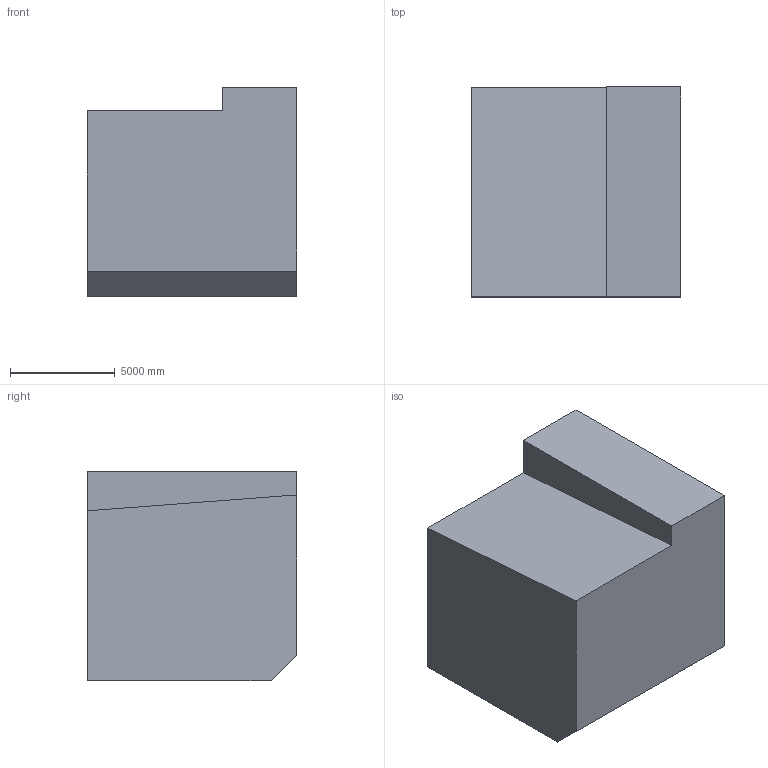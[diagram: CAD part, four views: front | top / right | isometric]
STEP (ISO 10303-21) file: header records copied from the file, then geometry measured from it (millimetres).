
FILE_DESCRIPTION (( 'STEP AP203' ), '1' );
FILE_NAME ('1190.STEP', '2022-08-18T13:06:54', ( 'user' ), ( '' ), 'SwSTEP 2.0', 'SolidWorks 2021', '' );
FILE_SCHEMA (( 'CONFIG_CONTROL_DESIGN' ));
Length unit declared in the file: centimetre
Products named in the file (1): 1190
Bounding box: 10000 x 10000 x 10000 mm (x, y, z)
Volume: 894676716104.9 mm3; surface area: 571925346.3 mm2
Topology: 1 solids, 1 shells, 9 faces, 21 edges, 14 vertices
Faces by surface type: plane 9
Entity records: 332 total; most frequent: CARTESIAN_POINT 45, ORIENTED_EDGE 42, DIRECTION 41, EDGE_CURVE 21, LINE 21, VECTOR 21, VERTEX_POINT 14, AXIS2_PLACEMENT_3D 10
